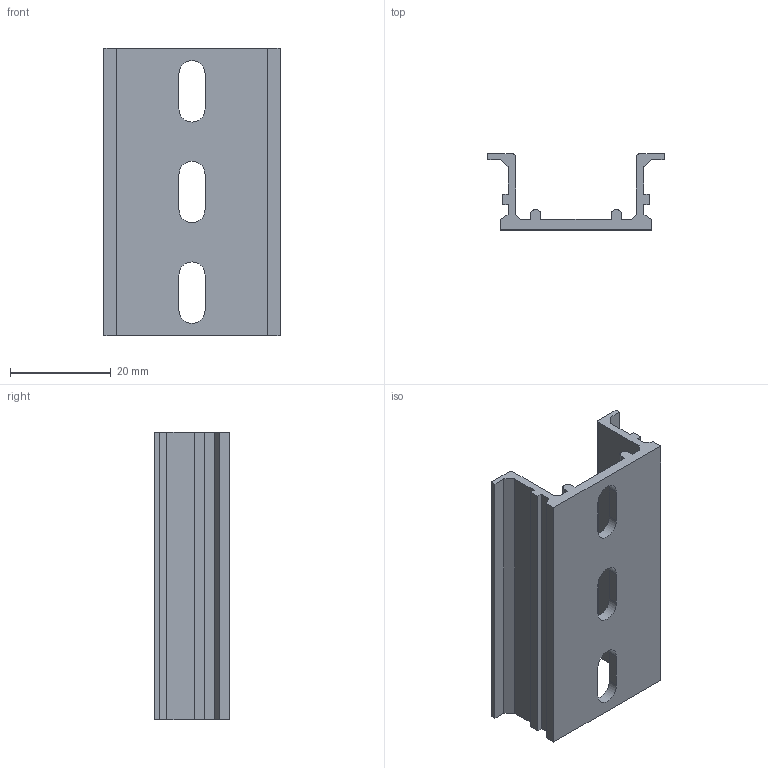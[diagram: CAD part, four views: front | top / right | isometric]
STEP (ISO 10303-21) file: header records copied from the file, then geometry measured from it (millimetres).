
FILE_DESCRIPTION(/* description */ (''),/* implementation_level */ '2;1');
FILE_NAME(/* name */ '22646-(TKB KD-3)HP 3D.stp',/* time_stamp */ '2024-12-05T13:51:19+09:00',/* author */ ('usercadg104'),/* organization */ (''),/* preprocessor_version */ 'ST-DEVELOPER v19.2',/* originating_system */ 'Autodesk Inventor 2023',/* authorisation */ '');
FILE_SCHEMA (('CONFIG_CONTROL_DESIGN'));
Length unit declared in the file: millimetre
Products named in the file (1): 22646-(TKB KD-3)HP 3D
Bounding box: 35 x 15 x 57 mm (x, y, z)
Volume: 6652.9 mm3; surface area: 7921 mm2
Topology: 1 solids, 1 shells, 52 faces, 150 edges, 100 vertices
Faces by surface type: plane 42, cylinder 10
Entity records: 1749 total; most frequent: CARTESIAN_POINT 303, ORIENTED_EDGE 300, DIRECTION 276, EDGE_CURVE 150, LINE 130, VECTOR 130, VERTEX_POINT 100, AXIS2_PLACEMENT_3D 73
